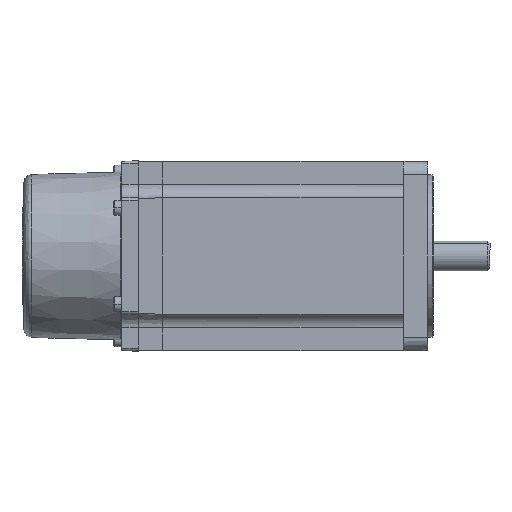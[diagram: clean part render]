
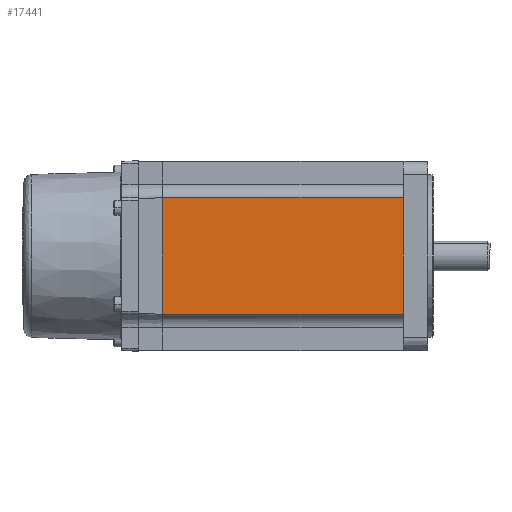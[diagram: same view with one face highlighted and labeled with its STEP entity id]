
A CAD part, front view. The second image highlights one B-rep face of the part: STEP entity #17441.
In plain terms, the highlighted planar face has unit normal (0, -1, 0) as drawn and (0, 1, 0) by its records, which use the part's own axes.
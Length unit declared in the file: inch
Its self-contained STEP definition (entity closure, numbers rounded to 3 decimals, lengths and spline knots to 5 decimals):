
#11695 = ORIENTED_EDGE ( 'NONE', *, *, #158056, .T. ) ;
#17441 = ADVANCED_FACE ( 'NONE', ( #123863 ), #117800, .T. ) ;
#23686 = CARTESIAN_POINT ( 'NONE',  ( 0.84711, 1.37795, -1.25984 ) ) ;
#28745 = DIRECTION ( 'NONE',  ( 0., 1., 0. ) ) ;
#36499 = DIRECTION ( 'NONE',  ( 0., 0., 1. ) ) ;
#43029 = LINE ( 'NONE', #23686, #141224 ) ;
#50832 = DIRECTION ( 'NONE',  ( 0., 0., -1. ) ) ;
#59121 = VECTOR ( 'NONE', #77791, 39.37008 ) ;
#60450 = LINE ( 'NONE', #127627, #86448 ) ;
#61414 = EDGE_CURVE ( 'NONE', #86946, #90753, #60450, .T. ) ;
#65605 = CARTESIAN_POINT ( 'NONE',  ( -1.37795, 1.37795, 2.24409 ) ) ;
#72380 = EDGE_CURVE ( 'NONE', #90753, #87132, #89153, .T. ) ;
#73308 = VERTEX_POINT ( 'NONE', #115832 ) ;
#77791 = DIRECTION ( 'NONE',  ( 1., 0., 0. ) ) ;
#79383 = ORIENTED_EDGE ( 'NONE', *, *, #61414, .F. ) ;
#79650 = CARTESIAN_POINT ( 'NONE',  ( -1.37795, 1.37795, 2.24409 ) ) ;
#80664 = VECTOR ( 'NONE', #155350, 39.37008 ) ;
#86448 = VECTOR ( 'NONE', #50832, 39.37008 ) ;
#86946 = VERTEX_POINT ( 'NONE', #109878 ) ;
#87132 = VERTEX_POINT ( 'NONE', #135912 ) ;
#89153 = LINE ( 'NONE', #154679, #59121 ) ;
#89991 = ORIENTED_EDGE ( 'NONE', *, *, #142204, .F. ) ;
#90753 = VERTEX_POINT ( 'NONE', #124661 ) ;
#109878 = CARTESIAN_POINT ( 'NONE',  ( -0.84711, 1.37795, 2.24409 ) ) ;
#111106 = AXIS2_PLACEMENT_3D ( 'NONE', #79650, #28745, #118343 ) ;
#112721 = EDGE_LOOP ( 'NONE', ( #89991, #164387, #79383, #11695 ) ) ;
#114744 = LINE ( 'NONE', #65605, #80664 ) ;
#115832 = CARTESIAN_POINT ( 'NONE',  ( 0.84711, 1.37795, 2.24409 ) ) ;
#117800 = PLANE ( 'NONE',  #111106 ) ;
#118343 = DIRECTION ( 'NONE',  ( 0., 0., 1. ) ) ;
#123863 = FACE_OUTER_BOUND ( 'NONE', #112721, .T. ) ;
#124661 = CARTESIAN_POINT ( 'NONE',  ( -0.84711, 1.37795, -1.25984 ) ) ;
#127627 = CARTESIAN_POINT ( 'NONE',  ( -0.84711, 1.37795, 4.6063 ) ) ;
#135912 = CARTESIAN_POINT ( 'NONE',  ( 0.84711, 1.37795, -1.25984 ) ) ;
#141224 = VECTOR ( 'NONE', #36499, 39.37008 ) ;
#142204 = EDGE_CURVE ( 'NONE', #87132, #73308, #43029, .T. ) ;
#154679 = CARTESIAN_POINT ( 'NONE',  ( -1.37795, 1.37795, -1.25984 ) ) ;
#155350 = DIRECTION ( 'NONE',  ( 1., 0., 0. ) ) ;
#158056 = EDGE_CURVE ( 'NONE', #86946, #73308, #114744, .T. ) ;
#164387 = ORIENTED_EDGE ( 'NONE', *, *, #72380, .F. ) ;
